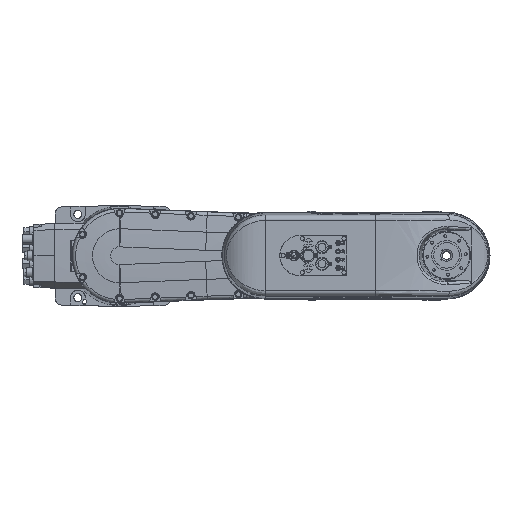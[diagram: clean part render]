
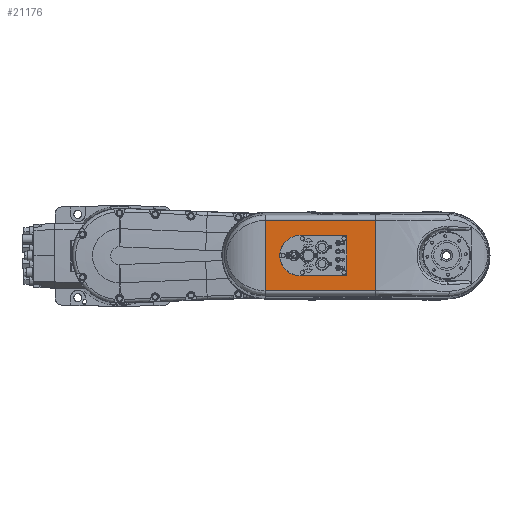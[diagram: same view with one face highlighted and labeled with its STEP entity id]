
A CAD part, top view. The second image highlights one B-rep face of the part: STEP entity #21176.
In plain terms, the highlighted planar face has unit normal (0, 0, 1).
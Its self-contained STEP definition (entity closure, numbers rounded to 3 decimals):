
#1105 = VECTOR ( 'NONE', #67921, 1000. ) ;
#3391 = EDGE_CURVE ( 'NONE', #93487, #63319, #17908, .T. ) ;
#4222 = LINE ( 'NONE', #7570, #79553 ) ;
#5942 = ORIENTED_EDGE ( 'NONE', *, *, #17386, .F. ) ;
#7430 = DIRECTION ( 'NONE',  ( -1., 0., 0. ) ) ;
#7547 = ORIENTED_EDGE ( 'NONE', *, *, #95948, .T. ) ;
#7570 = CARTESIAN_POINT ( 'NONE',  ( 382.5, 34., 457.7 ) ) ;
#7922 = CARTESIAN_POINT ( 'NONE',  ( 382.5, -33.172, 457.7 ) ) ;
#9442 = CARTESIAN_POINT ( 'NONE',  ( 430., -59.156, 457.7 ) ) ;
#9929 = EDGE_LOOP ( 'NONE', ( #75763, #94590, #32015, #7547 ) ) ;
#11998 = CARTESIAN_POINT ( 'NONE',  ( 380.501, -34., 457.7 ) ) ;
#15264 = LINE ( 'NONE', #9442, #107641 ) ;
#15455 = CARTESIAN_POINT ( 'NONE',  ( 382.5, 32.001, 457.7 ) ) ;
#17386 = EDGE_CURVE ( 'NONE', #84088, #69291, #86865, .T. ) ;
#17679 = VERTEX_POINT ( 'NONE', #99217 ) ;
#17908 = LINE ( 'NONE', #100762, #67337 ) ;
#21176 = ADVANCED_FACE ( 'NONE', ( #82052, #43474 ), #61494, .T. ) ;
#23587 = DIRECTION ( 'NONE',  ( -1., 0., 0. ) ) ;
#23926 = CARTESIAN_POINT ( 'NONE',  ( 380.501, -34., 457.7 ) ) ;
#24635 = CARTESIAN_POINT ( 'NONE',  ( 380.501, 34., 457.7 ) ) ;
#24880 = CARTESIAN_POINT ( 'NONE',  ( 245., 59.156, 457.7 ) ) ;
#25134 = VERTEX_POINT ( 'NONE', #55684 ) ;
#25862 = AXIS2_PLACEMENT_3D ( 'NONE', #94152, #61135, #44462 ) ;
#31063 = EDGE_CURVE ( 'NONE', #17679, #69291, #104572, .T. ) ;
#32015 = ORIENTED_EDGE ( 'NONE', *, *, #3391, .F. ) ;
#32768 = DIRECTION ( 'NONE',  ( 1., 0., 0. ) ) ;
#33313 = CARTESIAN_POINT ( 'NONE',  ( 382.5, 34., 457.7 ) ) ;
#33333 = CARTESIAN_POINT ( 'NONE',  ( 303.5, 0., 457.7 ) ) ;
#34120 = CARTESIAN_POINT ( 'NONE',  ( 382.5, -32.001, 457.7 ) ) ;
#34643 = CARTESIAN_POINT ( 'NONE',  ( 245., -59.156, 457.7 ) ) ;
#37674 = VERTEX_POINT ( 'NONE', #87236 ) ;
#39990 = EDGE_CURVE ( 'NONE', #84088, #90463, #49572, .T. ) ;
#41336 = CARTESIAN_POINT ( 'NONE',  ( 381.672, -34., 457.7 ) ) ;
#42957 = LINE ( 'NONE', #95480, #71484 ) ;
#43474 = FACE_BOUND ( 'NONE', #68883, .T. ) ;
#44462 = DIRECTION ( 'NONE',  ( 0., -1., 0. ) ) ;
#47393 = CARTESIAN_POINT ( 'NONE',  ( 245., 59.156, 457.7 ) ) ;
#47620 = ORIENTED_EDGE ( 'NONE', *, *, #86967, .F. ) ;
#49572 =( BOUNDED_CURVE ( )  B_SPLINE_CURVE ( 3, ( #98723, #7922, #41336, #23926 ),
 .UNSPECIFIED., .F., .F. ) 
 B_SPLINE_CURVE_WITH_KNOTS ( ( 4, 4 ),
 ( 2.357, 3.927 ),
 .UNSPECIFIED. ) 
 CURVE ( )  GEOMETRIC_REPRESENTATION_ITEM ( )  RATIONAL_B_SPLINE_CURVE ( ( 1., 0.805, 0.805, 1. ) ) 
 REPRESENTATION_ITEM ( '' )  );
#50335 = DIRECTION ( 'NONE',  ( 0., 1., 0. ) ) ;
#55684 = CARTESIAN_POINT ( 'NONE',  ( 430., -59.156, 457.7 ) ) ;
#57508 = VECTOR ( 'NONE', #7430, 1000. ) ;
#57747 = ORIENTED_EDGE ( 'NONE', *, *, #100586, .F. ) ;
#58742 = CARTESIAN_POINT ( 'NONE',  ( 382.5, 32.001, 457.7 ) ) ;
#61135 = DIRECTION ( 'NONE',  ( 0., 0., 1. ) ) ;
#61494 = PLANE ( 'NONE',  #25862 ) ;
#61624 = EDGE_CURVE ( 'NONE', #25134, #81706, #42957, .T. ) ;
#63319 = VERTEX_POINT ( 'NONE', #47393 ) ;
#63683 = ORIENTED_EDGE ( 'NONE', *, *, #39990, .T. ) ;
#65647 = CARTESIAN_POINT ( 'NONE',  ( 382.5, 33.172, 457.7 ) ) ;
#65721 = VERTEX_POINT ( 'NONE', #75535 ) ;
#67337 = VECTOR ( 'NONE', #75355, 1000. ) ;
#67645 = ORIENTED_EDGE ( 'NONE', *, *, #31063, .T. ) ;
#67921 = DIRECTION ( 'NONE',  ( 1., 0., 0. ) ) ;
#68883 = EDGE_LOOP ( 'NONE', ( #57747, #67645, #5942, #63683, #47620, #79374 ) ) ;
#69291 = VERTEX_POINT ( 'NONE', #15455 ) ;
#70548 = EDGE_CURVE ( 'NONE', #65721, #37674, #83010, .T. ) ;
#71484 = VECTOR ( 'NONE', #79115, 1000. ) ;
#75144 = EDGE_CURVE ( 'NONE', #81706, #63319, #101689, .T. ) ;
#75355 = DIRECTION ( 'NONE',  ( 0., 1., 0. ) ) ;
#75535 = CARTESIAN_POINT ( 'NONE',  ( 303.5, 34., 457.7 ) ) ;
#75763 = ORIENTED_EDGE ( 'NONE', *, *, #61624, .T. ) ;
#79115 = DIRECTION ( 'NONE',  ( 0., 1., 0. ) ) ;
#79374 = ORIENTED_EDGE ( 'NONE', *, *, #70548, .F. ) ;
#79553 = VECTOR ( 'NONE', #23587, 1000. ) ;
#81706 = VERTEX_POINT ( 'NONE', #93741 ) ;
#82052 = FACE_OUTER_BOUND ( 'NONE', #9929, .T. ) ;
#82664 = CARTESIAN_POINT ( 'NONE',  ( 381.672, 34., 457.7 ) ) ;
#82997 = DIRECTION ( 'NONE',  ( 0., 0., 1. ) ) ;
#83010 = CIRCLE ( 'NONE', #100021, 34. ) ;
#84088 = VERTEX_POINT ( 'NONE', #34120 ) ;
#86865 = LINE ( 'NONE', #33313, #106375 ) ;
#86967 = EDGE_CURVE ( 'NONE', #37674, #90463, #107704, .T. ) ;
#87236 = CARTESIAN_POINT ( 'NONE',  ( 303.5, -34., 457.7 ) ) ;
#90463 = VERTEX_POINT ( 'NONE', #11998 ) ;
#93487 = VERTEX_POINT ( 'NONE', #34643 ) ;
#93741 = CARTESIAN_POINT ( 'NONE',  ( 430., 59.156, 457.7 ) ) ;
#94152 = CARTESIAN_POINT ( 'NONE',  ( 245., 0., 457.7 ) ) ;
#94590 = ORIENTED_EDGE ( 'NONE', *, *, #75144, .T. ) ;
#95480 = CARTESIAN_POINT ( 'NONE',  ( 430., -705.455, 457.7 ) ) ;
#95948 = EDGE_CURVE ( 'NONE', #93487, #25134, #15264, .T. ) ;
#98635 = DIRECTION ( 'NONE',  ( 0., 1., 0. ) ) ;
#98723 = CARTESIAN_POINT ( 'NONE',  ( 382.5, -32.001, 457.7 ) ) ;
#99217 = CARTESIAN_POINT ( 'NONE',  ( 380.501, 34., 457.7 ) ) ;
#99900 = CARTESIAN_POINT ( 'NONE',  ( 382.5, -34., 457.7 ) ) ;
#100021 = AXIS2_PLACEMENT_3D ( 'NONE', #33333, #82997, #50335 ) ;
#100586 = EDGE_CURVE ( 'NONE', #17679, #65721, #4222, .T. ) ;
#100762 = CARTESIAN_POINT ( 'NONE',  ( 245., -705.242, 457.7 ) ) ;
#101689 = LINE ( 'NONE', #24880, #57508 ) ;
#104572 =( BOUNDED_CURVE ( )  B_SPLINE_CURVE ( 3, ( #24635, #82664, #65647, #58742 ),
 .UNSPECIFIED., .F., .T. ) 
 B_SPLINE_CURVE_WITH_KNOTS ( ( 4, 4 ),
 ( 2.357, 3.927 ),
 .UNSPECIFIED. ) 
 CURVE ( )  GEOMETRIC_REPRESENTATION_ITEM ( )  RATIONAL_B_SPLINE_CURVE ( ( 1., 0.805, 0.805, 1. ) ) 
 REPRESENTATION_ITEM ( '' )  );
#106375 = VECTOR ( 'NONE', #98635, 1000. ) ;
#107641 = VECTOR ( 'NONE', #32768, 1000. ) ;
#107704 = LINE ( 'NONE', #99900, #1105 ) ;
